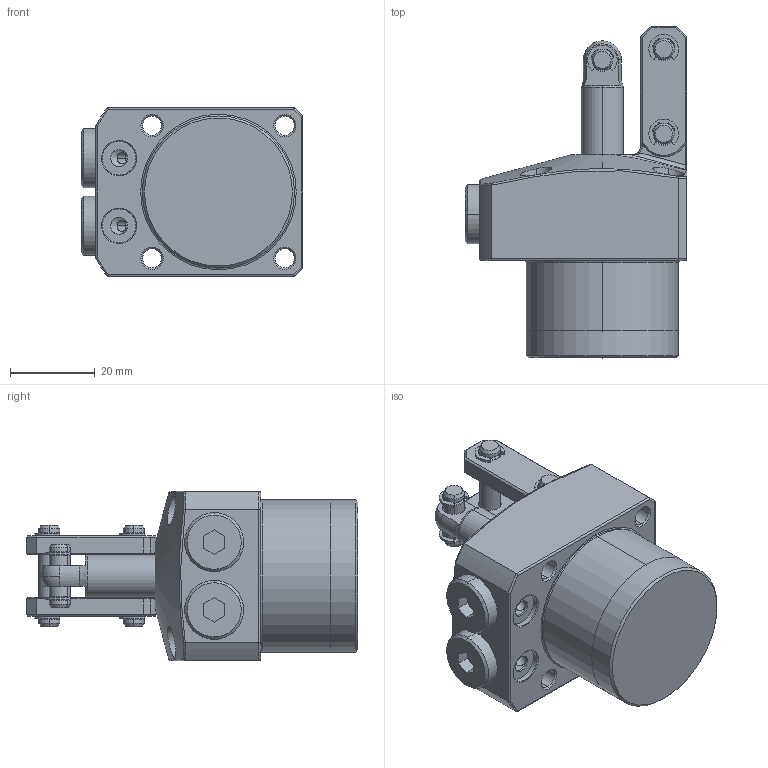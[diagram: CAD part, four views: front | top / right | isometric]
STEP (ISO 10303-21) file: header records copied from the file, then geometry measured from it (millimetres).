
FILE_DESCRIPTION(/* description */ (''),/* implementation_level */ '2;1');
FILE_NAME(/* name */ 'KTPC36-F.stp',/* time_stamp */ '2022-11-18T14:07:12+08:00',/* author */ (''),/* organization */ (''),/* preprocessor_version */ 'ST-DEVELOPER v16.7',/* originating_system */ 'SIEMENS PLM Software NX 12.0',/* authorisation */ '');
FILE_SCHEMA (('AP203_CONFIGURATION_CONTROLLED_3D_DESIGN_OF_MECHANICAL_PARTS_AND_ASSEMBLIES_MIM_LF { 1 0 10303 403 2 1 2}'));
Length unit declared in the file: millimetre
Products named in the file (9): KTPC36-F-01; KTPC36-F-03; KTPC36-F-04; KTPC36-F-06; KTPC36-F-02; KTPC36-F-08; KTPC36-F-05; KTPC36-F-07; LKA0360-CC_step
Assembly tree (16 placements, depth 2):
  LKA0360-CC_step
    KTPC36-F-07
    KTPC36-F-05  x2
    KTPC36-F-08  x6
    KTPC36-F-02  x2
    KTPC36-F-06  x2
    KTPC36-F-04
    KTPC36-F-03
    KTPC36-F-01
Bounding box: 52.5 x 78.5 x 40 mm (x, y, z)
Volume: 87986.8 mm3; surface area: 22217.1 mm2
Topology: 16 solids, 16 shells, 526 faces, 1247 edges, 775 vertices
Faces by surface type: cylinder 200, plane 175, cone 70, torus 60, bspline 19, sphere 2
Full cylindrical faces by diameter (mm): 36 x1
Entity records: 11443 total; most frequent: CARTESIAN_POINT 2957, DIRECTION 1574, ORIENTED_EDGE 1464, EDGE_CURVE 732, AXIS2_PLACEMENT_3D 641, VERTEX_POINT 448, EDGE_LOOP 358, CIRCLE 324
